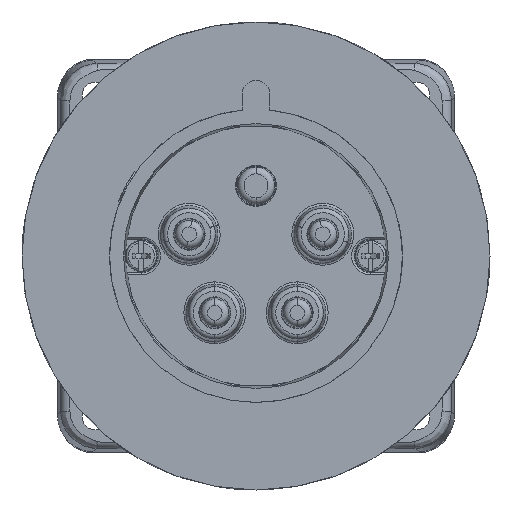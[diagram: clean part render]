
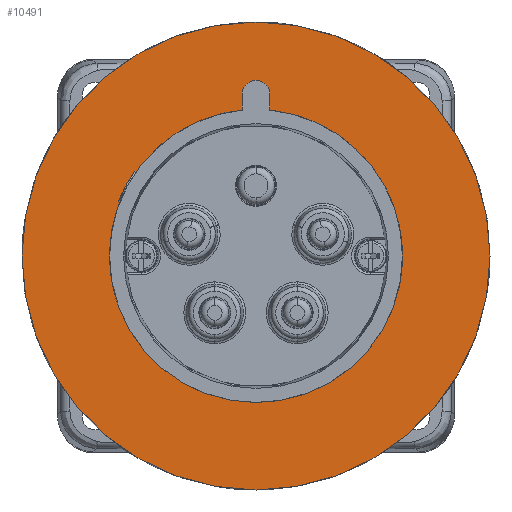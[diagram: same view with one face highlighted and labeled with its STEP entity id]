
A CAD part, front view. The second image highlights one B-rep face of the part: STEP entity #10491.
In plain terms, the highlighted planar face has unit normal (0, -1, 0).
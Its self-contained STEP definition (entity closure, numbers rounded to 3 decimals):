
#1379=CARTESIAN_POINT('',(0.,-18.3,0.));
#1380=DIRECTION('',(0.,-1.,0.));
#1381=DIRECTION('',(0.977,0.,0.214));
#1382=AXIS2_PLACEMENT_3D('',#1379,#1380,#1381);
#1561=CARTESIAN_POINT('',(0.,-18.3,0.));
#1562=DIRECTION('',(0.,-1.,0.));
#1563=DIRECTION('',(1.,0.,0.));
#1564=AXIS2_PLACEMENT_3D('',#1561,#1562,#1563);
#1900=CARTESIAN_POINT('',(0.,-18.3,0.));
#1901=DIRECTION('',(0.,1.,0.));
#1902=DIRECTION('',(1.,0.,0.));
#1903=AXIS2_PLACEMENT_3D('',#1900,#1901,#1902);
#5011=DIRECTION('',(1.,0.,0.));
#5012=VECTOR('',#5011,0.533);
#5013=CARTESIAN_POINT('',(-29.697,-18.3,10.8));
#5014=LINE('1112',#5013,#5012);
#5100=CARTESIAN_POINT('',(0.,-18.3,0.));
#5101=DIRECTION('',(0.,-1.,0.));
#5102=DIRECTION('',(-0.94,0.,-0.342));
#5103=AXIS2_PLACEMENT_3D('',#5100,#5101,#5102);
#5130=DIRECTION('',(1.,0.,0.));
#5131=VECTOR('',#5130,0.533);
#5132=CARTESIAN_POINT('',(-29.697,-18.3,-10.8));
#5133=LINE('1111',#5132,#5131);
#5151=CARTESIAN_POINT('',(0.,-18.3,0.));
#5152=DIRECTION('',(0.,-1.,0.));
#5153=DIRECTION('',(-0.938,0.,0.347));
#5154=AXIS2_PLACEMENT_3D('',#5151,#5152,#5153);
#5285=DIRECTION('',(1.,0.,0.));
#5286=VECTOR('',#5285,0.614);
#5287=CARTESIAN_POINT('',(30.256,-18.3,6.75));
#5288=LINE('1114',#5287,#5286);
#5306=CARTESIAN_POINT('',(0.,-18.3,0.));
#5307=DIRECTION('',(0.,-1.,0.));
#5308=DIRECTION('',(0.976,0.,-0.218));
#5309=AXIS2_PLACEMENT_3D('',#5306,#5307,#5308);
#5322=DIRECTION('',(1.,0.,0.));
#5323=VECTOR('',#5322,0.614);
#5324=CARTESIAN_POINT('',(30.256,-18.3,-6.75));
#5325=LINE('1115',#5324,#5323);
#8592=CARTESIAN_POINT('',(50.5,-18.3,0.));
#8594=VERTEX_POINT('',#8592);
#8596=CARTESIAN_POINT('',(-50.5,-18.3,0.));
#8598=VERTEX_POINT('',#8596);
#8736=CARTESIAN_POINT('',(30.871,-18.3,6.75));
#8737=CARTESIAN_POINT('',(-29.697,-18.3,10.8));
#8738=VERTEX_POINT('',#8736);
#8739=VERTEX_POINT('',#8737);
#8740=CARTESIAN_POINT('',(-29.697,-18.3,-10.8));
#8741=CARTESIAN_POINT('',(30.871,-18.3,-6.75));
#8742=VERTEX_POINT('',#8740);
#8743=VERTEX_POINT('',#8741);
#8744=CARTESIAN_POINT('',(-29.165,-18.3,-10.8));
#8745=VERTEX_POINT('',#8744);
#8746=CARTESIAN_POINT('',(-29.165,-18.3,10.8));
#8747=VERTEX_POINT('',#8746);
#8748=CARTESIAN_POINT('',(30.256,-18.3,6.75));
#8749=VERTEX_POINT('',#8748);
#8750=CARTESIAN_POINT('',(30.256,-18.3,-6.75));
#8751=VERTEX_POINT('',#8750);
#10463=CARTESIAN_POINT('',(0.,-18.3,0.));
#10464=DIRECTION('',(0.,-1.,0.));
#10465=DIRECTION('',(-1.,0.,0.));
#10466=AXIS2_PLACEMENT_3D('',#10463,#10464,#10465);
#10467=PLANE('281',#10466);
#10469=ORIENTED_EDGE('961',*,*,#10468,.F.);
#10471=ORIENTED_EDGE('962',*,*,#10470,.T.);
#10472=EDGE_LOOP('281',(#10469,#10471));
#10473=FACE_OUTER_BOUND('281',#10472,.F.);
#10474=ORIENTED_EDGE('1109',*,*,#10394,.T.);
#10476=ORIENTED_EDGE('1112',*,*,#10475,.T.);
#10478=ORIENTED_EDGE('1113',*,*,#10477,.T.);
#10480=ORIENTED_EDGE('1111',*,*,#10479,.F.);
#10482=ORIENTED_EDGE('1110',*,*,#10481,.T.);
#10484=ORIENTED_EDGE('1115',*,*,#10483,.F.);
#10486=ORIENTED_EDGE('1116',*,*,#10485,.T.);
#10488=ORIENTED_EDGE('1114',*,*,#10487,.T.);
#10489=EDGE_LOOP('281',(#10474,#10476,#10478,#10480,#10482,#10484,#10486,
#10488));
#10490=FACE_BOUND('281',#10489,.F.);
#1383=CIRCLE('1109',#1382,31.6);
#1565=CIRCLE('961',#1564,50.5);
#1904=CIRCLE('962',#1903,50.5);
#5104=CIRCLE('1110',#5103,31.6);
#5155=CIRCLE('1113',#5154,31.1);
#5310=CIRCLE('1116',#5309,31.);
#10394=EDGE_CURVE('1109',#8738,#8739,#1383,.T.);
#10468=EDGE_CURVE('961',#8594,#8598,#1565,.T.);
#10470=EDGE_CURVE('962',#8594,#8598,#1904,.T.);
#10475=EDGE_CURVE('1112',#8739,#8747,#5014,.T.);
#10477=EDGE_CURVE('1113',#8747,#8745,#5155,.T.);
#10479=EDGE_CURVE('1111',#8742,#8745,#5133,.T.);
#10481=EDGE_CURVE('1110',#8742,#8743,#5104,.T.);
#10483=EDGE_CURVE('1115',#8751,#8743,#5325,.T.);
#10485=EDGE_CURVE('1116',#8751,#8749,#5310,.T.);
#10487=EDGE_CURVE('1114',#8749,#8738,#5288,.T.);
#10491=ADVANCED_FACE('281',(#10473,#10490),#10467,.T.);
